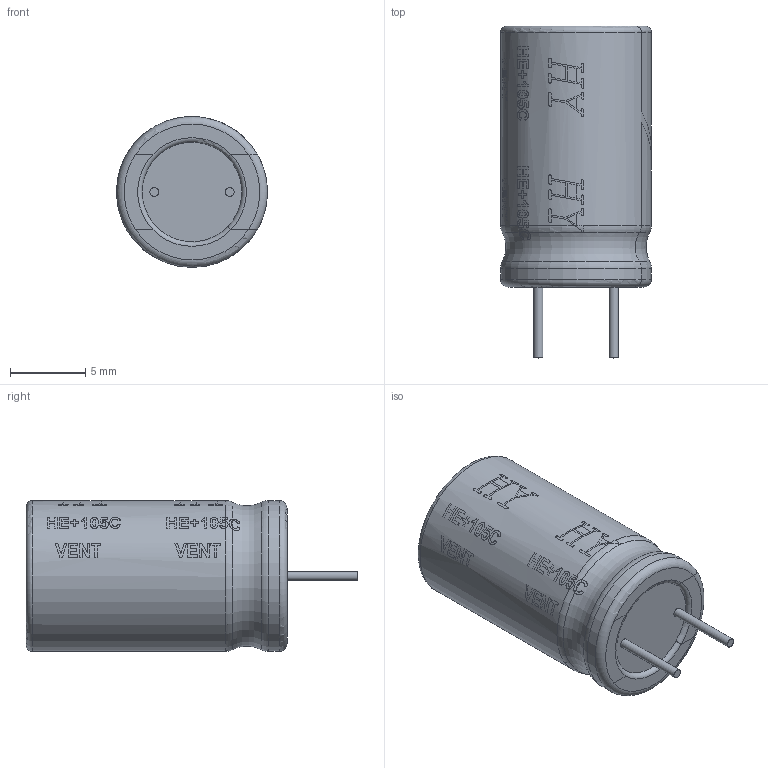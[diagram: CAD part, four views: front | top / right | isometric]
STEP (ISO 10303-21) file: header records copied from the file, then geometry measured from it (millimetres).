
FILE_DESCRIPTION(/* description */ ('STEP AP214'),/* implementation_level */ '2;1');
FILE_NAME(/* name */ 'Electrolytic_Cap_10D_17H.step',/* time_stamp */ '2026-10-10T02:46:59+07:00',/* author */ (''),/* organization */ (''),/* preprocessor_version */ 'ST-DEVELOPER v20.2',/* originating_system */ 'Autodesk Translation Framework v15.15.0.0',/* authorisation */ '');
FILE_SCHEMA (('AUTOMOTIVE_DESIGN { 1 0 10303 214 3 1 1 }'));
Length unit declared in the file: millimetre
Products named in the file (1): El_5_10_17._Black
Bounding box: 10 x 22 x 10 mm (x, y, z)
Volume: 1321.6 mm3; surface area: 715.4 mm2
Topology: 3 solids, 3 shells, 112 faces, 570 edges, 487 vertices
Faces by surface type: cylinder 53, torus 33, plane 18, bspline 8
Full cylindrical faces by diameter (mm): 0.6 x2, 10 x1
Entity records: 8676 total; most frequent: CARTESIAN_POINT 3854, ORIENTED_EDGE 1140, DIRECTION 877, EDGE_CURVE 570, VERTEX_POINT 487, AXIS2_PLACEMENT_3D 356, CIRCLE 218, LINE 165
